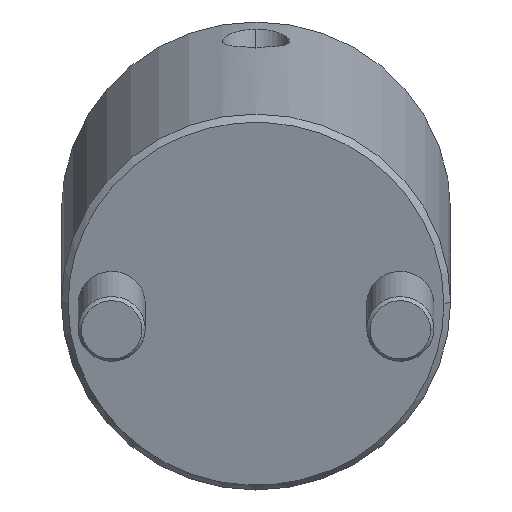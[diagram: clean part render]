
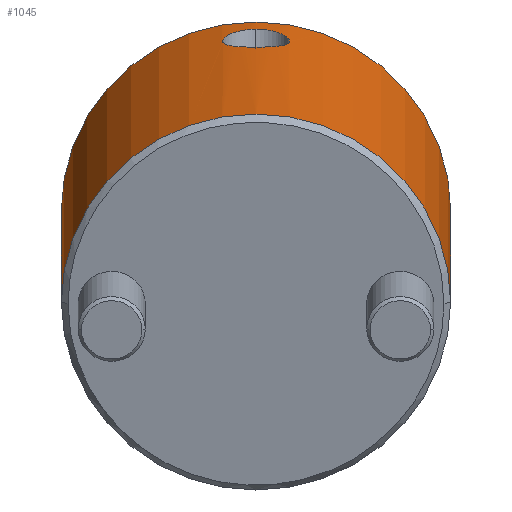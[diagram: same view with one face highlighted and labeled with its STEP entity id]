
A CAD part, front view. The second image highlights one B-rep face of the part: STEP entity #1045.
In plain terms, the highlighted cylindrical face has radius 29 mm (diameter 58 mm), a partial arc.
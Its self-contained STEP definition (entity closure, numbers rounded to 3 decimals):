
#781=CARTESIAN_POINT('Vertex',(0.,29.,1.)) ;
#784=CARTESIAN_POINT('Axis2P3D Location',(0.,0.,1.)) ;
#788=CARTESIAN_POINT('Vertex',(0.,-29.,1.)) ;
#940=CARTESIAN_POINT('Axis2P3D Location',(0.,0.,-2.75)) ;
#945=CARTESIAN_POINT('Line Origine',(0.,29.,-2.75)) ;
#949=CARTESIAN_POINT('Vertex',(0.,29.,54.)) ;
#952=CARTESIAN_POINT('Axis2P3D Location',(0.,0.,54.)) ;
#956=CARTESIAN_POINT('Vertex',(0.,-29.,54.)) ;
#959=CARTESIAN_POINT('Line Origine',(0.,-29.,-2.75)) ;
#971=CARTESIAN_POINT('Control Point',(29.,0.,49.884)) ;
#972=CARTESIAN_POINT('Control Point',(29.,0.418,49.884)) ;
#973=CARTESIAN_POINT('Control Point',(28.992,0.835,49.838)) ;
#974=CARTESIAN_POINT('Control Point',(28.977,1.251,49.742)) ;
#975=CARTESIAN_POINT('Control Point',(28.939,1.957,49.494)) ;
#976=CARTESIAN_POINT('Control Point',(28.884,2.612,49.109)) ;
#977=CARTESIAN_POINT('Control Point',(28.858,2.882,48.92)) ;
#978=CARTESIAN_POINT('Control Point',(28.794,3.479,48.422)) ;
#979=CARTESIAN_POINT('Control Point',(28.727,3.987,47.807)) ;
#980=CARTESIAN_POINT('Control Point',(28.69,4.238,47.427)) ;
#981=CARTESIAN_POINT('Control Point',(28.641,4.556,46.814)) ;
#982=CARTESIAN_POINT('Control Point',(28.605,4.773,46.168)) ;
#983=CARTESIAN_POINT('Control Point',(28.594,4.834,45.951)) ;
#984=CARTESIAN_POINT('Control Point',(28.573,4.958,45.399)) ;
#985=CARTESIAN_POINT('Control Point',(28.564,5.011,44.833)) ;
#986=CARTESIAN_POINT('Control Point',(28.563,5.015,44.494)) ;
#987=CARTESIAN_POINT('Control Point',(28.57,4.978,43.933)) ;
#988=CARTESIAN_POINT('Control Point',(28.588,4.869,43.389)) ;
#989=CARTESIAN_POINT('Control Point',(28.598,4.815,43.177)) ;
#990=CARTESIAN_POINT('Control Point',(28.62,4.683,42.758)) ;
#991=CARTESIAN_POINT('Control Point',(28.648,4.507,42.357)) ;
#992=CARTESIAN_POINT('Control Point',(28.663,4.409,42.161)) ;
#993=CARTESIAN_POINT('Control Point',(28.696,4.192,41.782)) ;
#994=CARTESIAN_POINT('Control Point',(28.732,3.935,41.431)) ;
#995=CARTESIAN_POINT('Control Point',(28.751,3.797,41.262)) ;
#996=CARTESIAN_POINT('Control Point',(28.808,3.356,40.78)) ;
#997=CARTESIAN_POINT('Control Point',(28.864,2.84,40.375)) ;
#998=CARTESIAN_POINT('Control Point',(28.899,2.466,40.144)) ;
#999=CARTESIAN_POINT('Control Point',(28.952,1.765,39.81)) ;
#1000=CARTESIAN_POINT('Control Point',(28.985,1.013,39.617)) ;
#1001=CARTESIAN_POINT('Control Point',(28.995,0.677,39.56)) ;
#1002=CARTESIAN_POINT('Control Point',(29.,0.34,39.532)) ;
#1003=CARTESIAN_POINT('Control Point',(29.,0.,39.532)) ;
#1004=CARTESIAN_POINT('Vertex',(29.,0.,49.884)) ;
#1006=CARTESIAN_POINT('Vertex',(29.,0.,39.532)) ;
#1010=CARTESIAN_POINT('Control Point',(29.,0.,39.532)) ;
#1011=CARTESIAN_POINT('Control Point',(29.,-0.438,39.532)) ;
#1012=CARTESIAN_POINT('Control Point',(28.992,-0.872,39.578)) ;
#1013=CARTESIAN_POINT('Control Point',(28.975,-1.303,39.673)) ;
#1014=CARTESIAN_POINT('Control Point',(28.94,-1.925,39.882)) ;
#1015=CARTESIAN_POINT('Control Point',(28.893,-2.503,40.19)) ;
#1016=CARTESIAN_POINT('Control Point',(28.876,-2.69,40.303)) ;
#1017=CARTESIAN_POINT('Control Point',(28.84,-3.05,40.548)) ;
#1018=CARTESIAN_POINT('Control Point',(28.803,-3.38,40.831)) ;
#1019=CARTESIAN_POINT('Control Point',(28.784,-3.537,40.981)) ;
#1020=CARTESIAN_POINT('Control Point',(28.737,-3.91,41.38)) ;
#1021=CARTESIAN_POINT('Control Point',(28.692,-4.224,41.825)) ;
#1022=CARTESIAN_POINT('Control Point',(28.666,-4.39,42.108)) ;
#1023=CARTESIAN_POINT('Control Point',(28.606,-4.772,42.897)) ;
#1024=CARTESIAN_POINT('Control Point',(28.57,-4.979,43.757)) ;
#1025=CARTESIAN_POINT('Control Point',(28.559,-5.039,44.323)) ;
#1026=CARTESIAN_POINT('Control Point',(28.564,-5.013,45.122)) ;
#1027=CARTESIAN_POINT('Control Point',(28.592,-4.848,45.895)) ;
#1028=CARTESIAN_POINT('Control Point',(28.602,-4.79,46.114)) ;
#1029=CARTESIAN_POINT('Control Point',(28.637,-4.579,46.76)) ;
#1030=CARTESIAN_POINT('Control Point',(28.685,-4.268,47.377)) ;
#1031=CARTESIAN_POINT('Control Point',(28.722,-4.02,47.761)) ;
#1032=CARTESIAN_POINT('Control Point',(28.799,-3.448,48.469)) ;
#1033=CARTESIAN_POINT('Control Point',(28.872,-2.757,49.027)) ;
#1034=CARTESIAN_POINT('Control Point',(28.905,-2.387,49.263)) ;
#1035=CARTESIAN_POINT('Control Point',(28.956,-1.701,49.603)) ;
#1036=CARTESIAN_POINT('Control Point',(28.986,-0.97,49.799)) ;
#1037=CARTESIAN_POINT('Control Point',(28.995,-0.646,49.856)) ;
#1038=CARTESIAN_POINT('Control Point',(29.,-0.324,49.884)) ;
#1039=CARTESIAN_POINT('Control Point',(29.,0.,49.884)) ;
#785=DIRECTION('Axis2P3D Direction',(0.,0.,1.)) ;
#941=DIRECTION('Axis2P3D Direction',(0.,-0.,1.)) ;
#942=DIRECTION('Axis2P3D XDirection',(0.,-1.,0.)) ;
#946=DIRECTION('Vector Direction',(0.,0.,1.)) ;
#953=DIRECTION('Axis2P3D Direction',(0.,-0.,1.)) ;
#960=DIRECTION('Vector Direction',(0.,0.,1.)) ;
#786=AXIS2_PLACEMENT_3D('Circle Axis2P3D',#784,#785,$) ;
#943=AXIS2_PLACEMENT_3D('Cylinder Axis2P3D',#940,#941,#942) ;
#954=AXIS2_PLACEMENT_3D('Circle Axis2P3D',#952,#953,$) ;
#965=ORIENTED_EDGE('',*,*,#951,.F.) ;
#966=ORIENTED_EDGE('',*,*,#958,.T.) ;
#967=ORIENTED_EDGE('',*,*,#963,.T.) ;
#968=ORIENTED_EDGE('',*,*,#790,.F.) ;
#1042=ORIENTED_EDGE('',*,*,#1008,.T.) ;
#1043=ORIENTED_EDGE('',*,*,#1040,.T.) ;
#1044=FACE_BOUND('',#1041,.T.) ;
#947=VECTOR('Line Direction',#946,1.) ;
#961=VECTOR('Line Direction',#960,1.) ;
#1045=ADVANCED_FACE('MANIFOLD_SOLID_BREP #1148',(#969,#1044),#944,.T.) ;
#970=B_SPLINE_CURVE_WITH_KNOTS('',5,(#971,#972,#973,#974,#975,#976,#977,#978,#979,#980,#981,#982,#983,#984,#985,#986,#987,#988,#989,#990,#991,#992,#993,#994,#995,#996,#997,#998,#999,#1000,#1001,#1002,#1003),.UNSPECIFIED.,.F.,.U.,(6,3,3,3,3,3,3,3,3,3,6),(0.,3.077,5.41,8.557,10.138,12.469,14.024,15.585,17.144,20.255,22.672),.UNSPECIFIED.) ;
#1009=B_SPLINE_CURVE_WITH_KNOTS('',5,(#1010,#1011,#1012,#1013,#1014,#1015,#1016,#1017,#1018,#1019,#1020,#1021,#1022,#1023,#1024,#1025,#1026,#1027,#1028,#1029,#1030,#1031,#1032,#1033,#1034,#1035,#1036,#1037,#1038,#1039),.UNSPECIFIED.,.F.,.U.,(6,3,3,3,3,3,3,3,3,6),(0.,3.118,4.673,6.231,8.57,12.455,14.035,17.179,20.289,22.669),.UNSPECIFIED.) ;
#787=CIRCLE('generated circle',#786,29.) ;
#955=CIRCLE('generated circle',#954,29.) ;
#944=CYLINDRICAL_SURFACE('generated cylinder',#943,29.) ;
#790=EDGE_CURVE('',#782,#789,#787,.F.) ;
#951=EDGE_CURVE('',#950,#782,#948,.F.) ;
#958=EDGE_CURVE('',#950,#957,#955,.F.) ;
#963=EDGE_CURVE('',#957,#789,#962,.F.) ;
#1008=EDGE_CURVE('',#1005,#1007,#970,.T.) ;
#1040=EDGE_CURVE('',#1007,#1005,#1009,.T.) ;
#964=EDGE_LOOP('',(#965,#966,#967,#968)) ;
#1041=EDGE_LOOP('',(#1042,#1043)) ;
#969=FACE_OUTER_BOUND('',#964,.T.) ;
#948=LINE('Line',#945,#947) ;
#962=LINE('Line',#959,#961) ;
#782=VERTEX_POINT('',#781) ;
#789=VERTEX_POINT('',#788) ;
#950=VERTEX_POINT('',#949) ;
#957=VERTEX_POINT('',#956) ;
#1005=VERTEX_POINT('',#1004) ;
#1007=VERTEX_POINT('',#1006) ;
